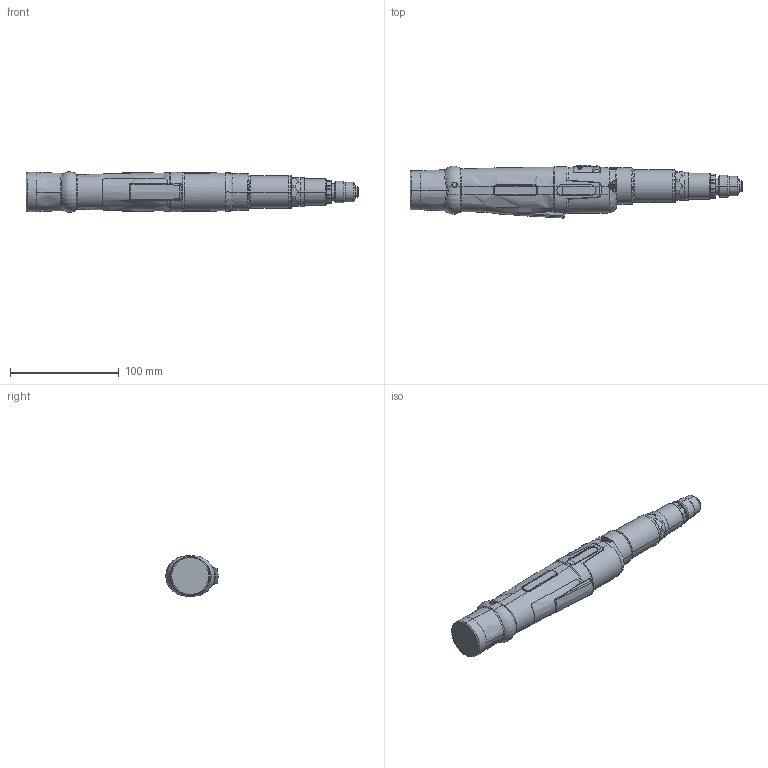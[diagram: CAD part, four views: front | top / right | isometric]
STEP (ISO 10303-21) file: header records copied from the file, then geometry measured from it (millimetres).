
FILE_DESCRIPTION (( 'STEP AP214' ), '1' );
FILE_NAME ('70141251_HSXK1006ZH14.STEP', '2021-12-22T06:35:04', ( '' ), ( '' ), 'SwSTEP 2.0', 'SolidWorks 2020', '' );
FILE_SCHEMA (( 'AUTOMOTIVE_DESIGN' ));
Length unit declared in the file: millimetre
Products named in the file (4): 70141211; 70141251_HSXK1006ZH14; 70141200; 70141230
Assembly tree (3 placements, depth 2):
  70141251_HSXK1006ZH14
    70141200
    70141211
    70141230
Bounding box: 305.2 x 47.98 x 37 mm (x, y, z)
Volume: 284617.2 mm3; surface area: 47000.8 mm2
Topology: 3 solids, 4 shells, 874 faces, 2226 edges, 1378 vertices
Faces by surface type: cylinder 288, bspline 239, plane 178, cone 74, torus 74, sphere 21
Entity records: 43798 total; most frequent: CARTESIAN_POINT 24325, ORIENTED_EDGE 4408, DIRECTION 3533, EDGE_CURVE 2204, AXIS2_PLACEMENT_3D 1468, VERTEX_POINT 1374, EDGE_LOOP 916, ADVANCED_FACE 874
